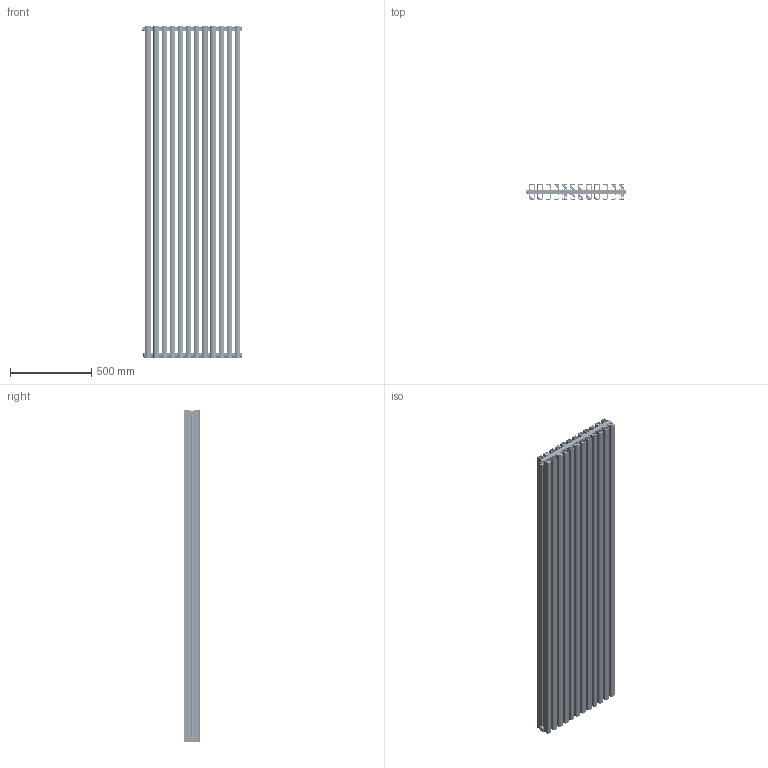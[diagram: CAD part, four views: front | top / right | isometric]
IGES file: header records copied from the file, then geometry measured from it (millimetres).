
Start section: SolidWorks IGES file using analytic representation for surfaces
Global section: file name: S:\RicercaSviluppo\01_DISEGNI\2_DISEGNI\02_ELEMENTI\39_TONALE\39_99_RICHIESTE CLIENTI\39_99_DRL\22-07-24\TONALE 2000_13.IGS; native system: SolidWorks 2024; preprocessor: SolidWorks 2024; author: massimo; date: 240722.115700; units: millimetre
Bounding box: 616.3 x 95 x 2039.3 mm (x, y, z)
Surface area: 17653393.7 mm2 (no closed solid volume)
Topology: 0 solids, 0 shells, 7108 faces, 86483 edges, 86339 vertices
Faces by surface type: revolution 3720, bspline 3388
